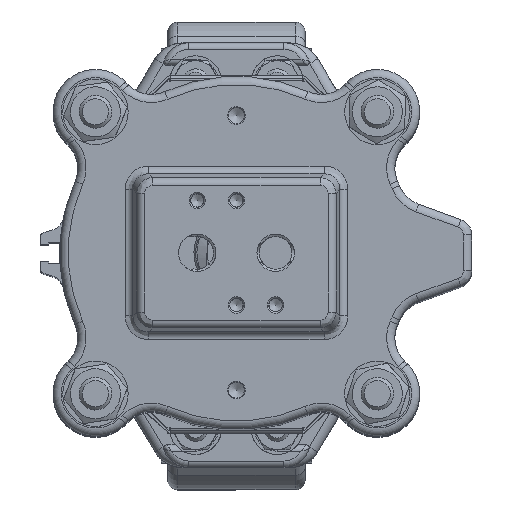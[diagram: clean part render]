
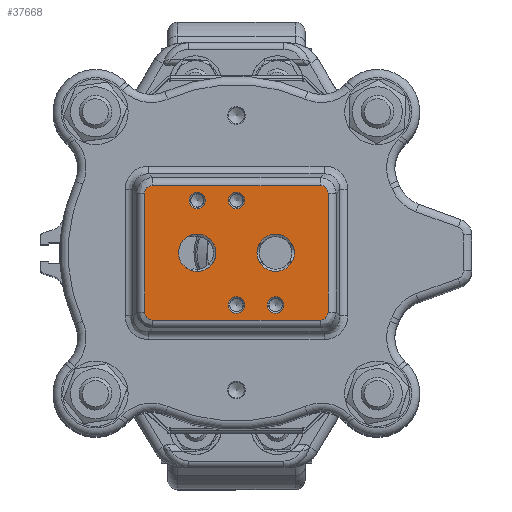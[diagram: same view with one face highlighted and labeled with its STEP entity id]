
A CAD part, top view. The second image highlights one B-rep face of the part: STEP entity #37668.
In plain terms, the highlighted planar face has unit normal (0, 0, 1).
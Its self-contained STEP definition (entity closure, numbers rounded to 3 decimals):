
#322=ELLIPSE('',#40521,2.673,2.5);
#323=ELLIPSE('',#40522,2.673,2.5);
#324=ELLIPSE('',#40523,2.673,2.5);
#325=ELLIPSE('',#40524,2.673,2.5);
#806=LINE('',#59231,#2755);
#807=LINE('',#59235,#2756);
#808=LINE('',#59239,#2757);
#809=LINE('',#59242,#2758);
#2755=VECTOR('',#46189,10.);
#2756=VECTOR('',#46192,10.);
#2757=VECTOR('',#46195,10.);
#2758=VECTOR('',#46198,10.);
#5491=PLANE('',#40520);
#7617=FACE_BOUND('',#10955,.T.);
#7618=FACE_BOUND('',#10956,.T.);
#7619=FACE_BOUND('',#10957,.T.);
#7620=FACE_BOUND('',#10958,.T.);
#7621=FACE_BOUND('',#10959,.T.);
#7622=FACE_BOUND('',#10960,.T.);
#8256=FACE_OUTER_BOUND('',#10954,.T.);
#10954=EDGE_LOOP('',(#26483,#26484,#26485,#26486,#26487,#26488,#26489,#26490));
#10955=EDGE_LOOP('',(#26491));
#10956=EDGE_LOOP('',(#26492));
#10957=EDGE_LOOP('',(#26493));
#10958=EDGE_LOOP('',(#26494));
#10959=EDGE_LOOP('',(#26495));
#10960=EDGE_LOOP('',(#26496));
#13796=CIRCLE('',#40393,5.723);
#13798=CIRCLE('',#40396,5.723);
#13888=CIRCLE('',#40519,2.5);
#13889=CIRCLE('',#40525,2.5);
#13890=CIRCLE('',#40526,2.5);
#13891=CIRCLE('',#40527,2.5);
#16431=VERTEX_POINT('',#58675);
#16432=VERTEX_POINT('',#58679);
#16532=VERTEX_POINT('',#59224);
#16533=VERTEX_POINT('',#59227);
#16534=VERTEX_POINT('',#59228);
#16535=VERTEX_POINT('',#59230);
#16536=VERTEX_POINT('',#59232);
#16537=VERTEX_POINT('',#59234);
#16538=VERTEX_POINT('',#59236);
#16539=VERTEX_POINT('',#59238);
#16540=VERTEX_POINT('',#59240);
#16541=VERTEX_POINT('',#59243);
#16542=VERTEX_POINT('',#59245);
#16543=VERTEX_POINT('',#59247);
#20170=EDGE_CURVE('',#16431,#16431,#13796,.T.);
#20172=EDGE_CURVE('',#16432,#16432,#13798,.T.);
#20302=EDGE_CURVE('',#16532,#16532,#13888,.T.);
#20303=EDGE_CURVE('',#16533,#16534,#322,.T.);
#20304=EDGE_CURVE('',#16535,#16533,#806,.T.);
#20305=EDGE_CURVE('',#16536,#16535,#323,.T.);
#20306=EDGE_CURVE('',#16537,#16536,#807,.T.);
#20307=EDGE_CURVE('',#16538,#16537,#324,.T.);
#20308=EDGE_CURVE('',#16539,#16538,#808,.T.);
#20309=EDGE_CURVE('',#16540,#16539,#325,.T.);
#20310=EDGE_CURVE('',#16534,#16540,#809,.T.);
#20311=EDGE_CURVE('',#16541,#16541,#13889,.T.);
#20312=EDGE_CURVE('',#16542,#16542,#13890,.T.);
#20313=EDGE_CURVE('',#16543,#16543,#13891,.T.);
#26483=ORIENTED_EDGE('',*,*,#20303,.F.);
#26484=ORIENTED_EDGE('',*,*,#20304,.F.);
#26485=ORIENTED_EDGE('',*,*,#20305,.F.);
#26486=ORIENTED_EDGE('',*,*,#20306,.F.);
#26487=ORIENTED_EDGE('',*,*,#20307,.F.);
#26488=ORIENTED_EDGE('',*,*,#20308,.F.);
#26489=ORIENTED_EDGE('',*,*,#20309,.F.);
#26490=ORIENTED_EDGE('',*,*,#20310,.F.);
#26491=ORIENTED_EDGE('',*,*,#20170,.T.);
#26492=ORIENTED_EDGE('',*,*,#20172,.T.);
#26493=ORIENTED_EDGE('',*,*,#20311,.F.);
#26494=ORIENTED_EDGE('',*,*,#20312,.F.);
#26495=ORIENTED_EDGE('',*,*,#20313,.F.);
#26496=ORIENTED_EDGE('',*,*,#20302,.F.);
#37668=ADVANCED_FACE('',(#8256,#7617,#7618,#7619,#7620,#7621,#7622),#5491,
 .F.);
#40393=AXIS2_PLACEMENT_3D('',#58676,#45909,#45910);
#40396=AXIS2_PLACEMENT_3D('',#58680,#45915,#45916);
#40519=AXIS2_PLACEMENT_3D('',#59225,#46183,#46184);
#40520=AXIS2_PLACEMENT_3D('',#59226,#46185,#46186);
#40521=AXIS2_PLACEMENT_3D('',#59229,#46187,#46188);
#40522=AXIS2_PLACEMENT_3D('',#59233,#46190,#46191);
#40523=AXIS2_PLACEMENT_3D('',#59237,#46193,#46194);
#40524=AXIS2_PLACEMENT_3D('',#59241,#46196,#46197);
#40525=AXIS2_PLACEMENT_3D('',#59244,#46199,#46200);
#40526=AXIS2_PLACEMENT_3D('',#59246,#46201,#46202);
#40527=AXIS2_PLACEMENT_3D('',#59248,#46203,#46204);
#45909=DIRECTION('center_axis',(0.,0.,
-1.));
#45910=DIRECTION('ref_axis',(1.,0.,0.));
#45915=DIRECTION('center_axis',(0.,0.,
-1.));
#45916=DIRECTION('ref_axis',(1.,0.,0.));
#46183=DIRECTION('center_axis',(0.,0.,
1.));
#46184=DIRECTION('ref_axis',(-1.,0.,0.));
#46185=DIRECTION('center_axis',(0.,0.,
-1.));
#46186=DIRECTION('ref_axis',(-1.,0.,0.));
#46187=DIRECTION('center_axis',(0.,0.,
-1.));
#46188=DIRECTION('ref_axis',(-0.707,-0.707,0.));
#46189=DIRECTION('',(-1.,0.,0.));
#46190=DIRECTION('center_axis',(0.,0.,
-1.));
#46191=DIRECTION('ref_axis',(0.707,-0.707,0.));
#46192=DIRECTION('',(0.,-1.,0.));
#46193=DIRECTION('center_axis',(0.,0.,
-1.));
#46194=DIRECTION('ref_axis',(0.707,0.707,0.));
#46195=DIRECTION('',(1.,0.,0.));
#46196=DIRECTION('center_axis',(0.,0.,
-1.));
#46197=DIRECTION('ref_axis',(-0.707,0.707,0.));
#46198=DIRECTION('',(0.,1.,0.));
#46199=DIRECTION('center_axis',(0.,0.,
1.));
#46200=DIRECTION('ref_axis',(-1.,0.,0.));
#46201=DIRECTION('center_axis',(0.,0.,
1.));
#46202=DIRECTION('ref_axis',(-1.,0.,0.));
#46203=DIRECTION('center_axis',(0.,0.,
1.));
#46204=DIRECTION('ref_axis',(-1.,0.,0.));
#58675=CARTESIAN_POINT('',(-6.278,0.,568.));
#58676=CARTESIAN_POINT('Origin',(-12.,0.,
568.));
#58679=CARTESIAN_POINT('',(17.722,0.,568.));
#58680=CARTESIAN_POINT('Origin',(12.,0.,
568.));
#59224=CARTESIAN_POINT('',(-9.5,16.,568.));
#59225=CARTESIAN_POINT('Origin',(-12.,16.,568.));
#59226=CARTESIAN_POINT('Origin',(0.,0.,
568.));
#59227=CARTESIAN_POINT('',(-25.667,-20.582,568.));
#59228=CARTESIAN_POINT('',(-28.082,-18.167,568.));
#59229=CARTESIAN_POINT('Origin',(-25.493,-17.993,568.));
#59230=CARTESIAN_POINT('',(25.667,-20.582,568.));
#59231=CARTESIAN_POINT('',(-15.,-20.582,568.));
#59232=CARTESIAN_POINT('',(28.082,-18.167,568.));
#59233=CARTESIAN_POINT('Origin',(25.493,-17.993,568.));
#59234=CARTESIAN_POINT('',(28.082,18.167,568.));
#59235=CARTESIAN_POINT('',(28.082,-11.25,568.));
#59236=CARTESIAN_POINT('',(25.667,20.582,568.));
#59237=CARTESIAN_POINT('Origin',(25.493,17.993,568.));
#59238=CARTESIAN_POINT('',(-25.667,20.582,568.));
#59239=CARTESIAN_POINT('',(15.,20.582,568.));
#59240=CARTESIAN_POINT('',(-28.082,18.167,568.));
#59241=CARTESIAN_POINT('Origin',(-25.493,17.993,568.));
#59242=CARTESIAN_POINT('',(-28.082,11.25,568.));
#59243=CARTESIAN_POINT('',(2.5,16.,568.));
#59244=CARTESIAN_POINT('Origin',(0.,16.,
568.));
#59245=CARTESIAN_POINT('',(14.5,-16.,568.));
#59246=CARTESIAN_POINT('Origin',(12.,-16.,568.));
#59247=CARTESIAN_POINT('',(2.5,-16.,568.));
#59248=CARTESIAN_POINT('Origin',(0.,-16.,
568.));
